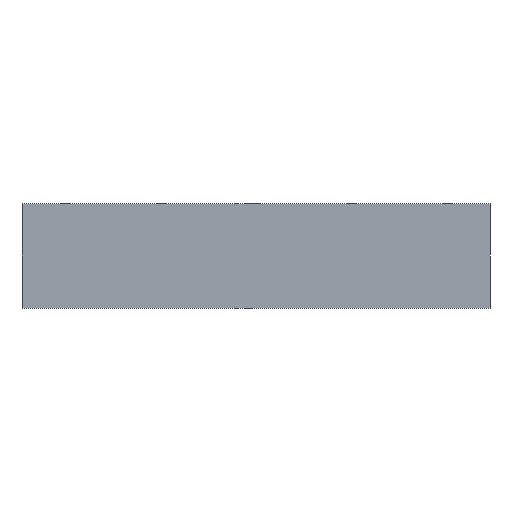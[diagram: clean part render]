
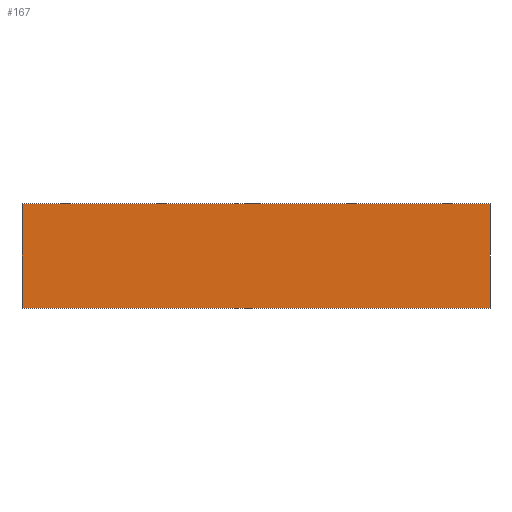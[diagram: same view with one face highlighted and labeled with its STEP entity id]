
A CAD part, left-side view. The second image highlights one B-rep face of the part: STEP entity #167.
In plain terms, the highlighted planar face has unit normal (-1, 0, 0).
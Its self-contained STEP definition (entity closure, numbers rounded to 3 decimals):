
#12 = VERTEX_POINT ( 'NONE', #6394 ) ;
#125 = LINE ( 'NONE', #6671, #2298 ) ;
#167 = ADVANCED_FACE ( 'NONE', ( #6431 ), #4076, .F. ) ;
#238 = DIRECTION ( 'NONE',  ( 1., 0., 0. ) ) ;
#418 = EDGE_CURVE ( 'NONE', #12, #5478, #8264, .T. ) ;
#803 = ORIENTED_EDGE ( 'NONE', *, *, #5060, .F. ) ;
#834 = DIRECTION ( 'NONE',  ( 0., 0., -1. ) ) ;
#843 = DIRECTION ( 'NONE',  ( 0., -1., 0. ) ) ;
#1065 = VECTOR ( 'NONE', #843, 1000. ) ;
#1300 = VECTOR ( 'NONE', #2295, 1000. ) ;
#1620 = VECTOR ( 'NONE', #6333, 1000. ) ;
#1710 = AXIS2_PLACEMENT_3D ( 'NONE', #7259, #238, #6630 ) ;
#2295 = DIRECTION ( 'NONE',  ( 0., -1., 0. ) ) ;
#2298 = VECTOR ( 'NONE', #834, 1000. ) ;
#2444 = ORIENTED_EDGE ( 'NONE', *, *, #418, .F. ) ;
#2608 = VERTEX_POINT ( 'NONE', #2829 ) ;
#2697 = ORIENTED_EDGE ( 'NONE', *, *, #6996, .T. ) ;
#2786 = VERTEX_POINT ( 'NONE', #4385 ) ;
#2829 = CARTESIAN_POINT ( 'NONE',  ( -182., 110.5, 49.3 ) ) ;
#2874 = CARTESIAN_POINT ( 'NONE',  ( -182., 110.5, 0. ) ) ;
#4076 = PLANE ( 'NONE',  #1710 ) ;
#4306 = ORIENTED_EDGE ( 'NONE', *, *, #6907, .T. ) ;
#4385 = CARTESIAN_POINT ( 'NONE',  ( -182., 110.5, 0. ) ) ;
#4487 = CARTESIAN_POINT ( 'NONE',  ( -182., -110.5, 0. ) ) ;
#4613 = CARTESIAN_POINT ( 'NONE',  ( -182., 110.5, 49.3 ) ) ;
#4858 = LINE ( 'NONE', #4613, #1065 ) ;
#5060 = EDGE_CURVE ( 'NONE', #2608, #12, #4858, .T. ) ;
#5193 = EDGE_LOOP ( 'NONE', ( #2697, #2444, #803, #4306 ) ) ;
#5304 = LINE ( 'NONE', #2874, #1300 ) ;
#5478 = VERTEX_POINT ( 'NONE', #4487 ) ;
#6333 = DIRECTION ( 'NONE',  ( 0., 0., -1. ) ) ;
#6394 = CARTESIAN_POINT ( 'NONE',  ( -182., -110.5, 49.3 ) ) ;
#6431 = FACE_OUTER_BOUND ( 'NONE', #5193, .T. ) ;
#6630 = DIRECTION ( 'NONE',  ( 0., 0., -1. ) ) ;
#6671 = CARTESIAN_POINT ( 'NONE',  ( -182., 110.5, 49.3 ) ) ;
#6907 = EDGE_CURVE ( 'NONE', #2608, #2786, #125, .T. ) ;
#6945 = CARTESIAN_POINT ( 'NONE',  ( -182., -110.5, 49.3 ) ) ;
#6996 = EDGE_CURVE ( 'NONE', #2786, #5478, #5304, .T. ) ;
#7259 = CARTESIAN_POINT ( 'NONE',  ( -182., 110.5, 49.3 ) ) ;
#8264 = LINE ( 'NONE', #6945, #1620 ) ;
